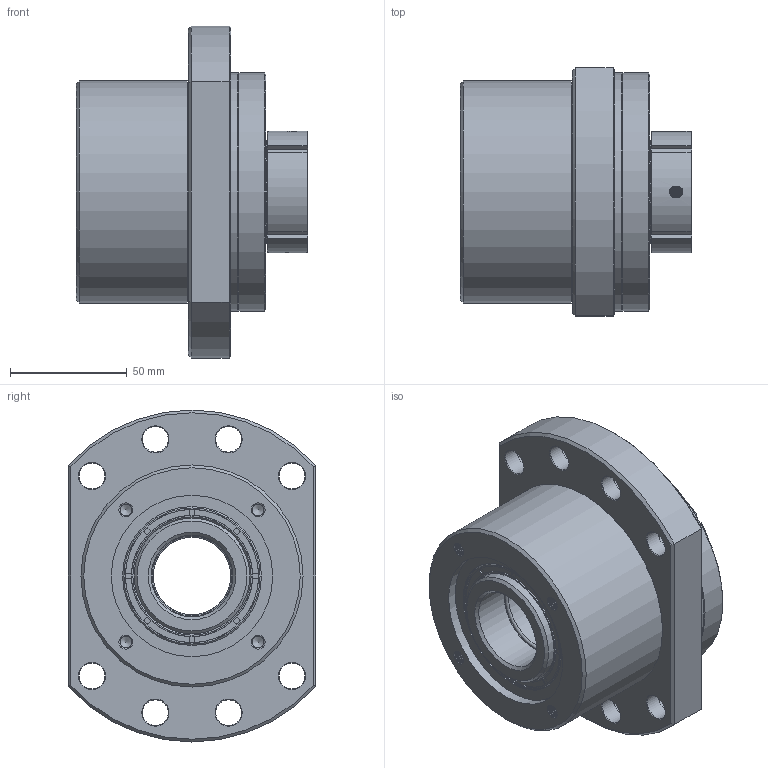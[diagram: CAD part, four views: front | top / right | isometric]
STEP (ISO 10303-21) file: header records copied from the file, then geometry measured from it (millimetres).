
FILE_DESCRIPTION(('STEP AP214'),'1');
FILE_NAME('WBK35DFD (2).stp','2016-10-05T11:42:38',(' '),(' '),'Spatial InterOp 3D',' ',' ');
FILE_SCHEMA(('automotive_design'));
Length unit declared in the file: millimetre
Products named in the file (3): Assembly24; WBK35DFD_1; WBK35DFD
Assembly tree (2 placements, depth 2):
  Assembly24
    WBK35DFD_1
    WBK35DFD
Bounding box: 99 x 106 x 142 mm (x, y, z)
Volume: 543349 mm3; surface area: 128089.3 mm2
Topology: 2 solids, 32 shells, 1292 faces, 3348 edges, 2035 vertices
Faces by surface type: cone 562, plane 310, torus 168, sphere 132, cylinder 120
Full cylindrical faces by diameter (mm): 4.2 x2, 5 x8, 6.6 x8, 8 x8, 9 x8, 11 x8, 13 x8, 14 x8, 17.5 x8, 35 x5, 36.2 x1, 44 x1, 49.4 x7, 51.8 x4, 57 x10, 59.4 x3, 63.2 x2, 69 x2, 70.8 x1, 72 x5, 93.8 x1, 95 x1, 102 x2
Entity records: 60890 total; most frequent: CARTESIAN_POINT 13024, DIRECTION 5212, ORIENTED_EDGE 4768, STYLED_ITEM 3610, PRESENTATION_STYLE_ASSIGNMENT 3610, COLOUR_RGB 3610, EDGE_CURVE 2384, CURVE_STYLE 2384
